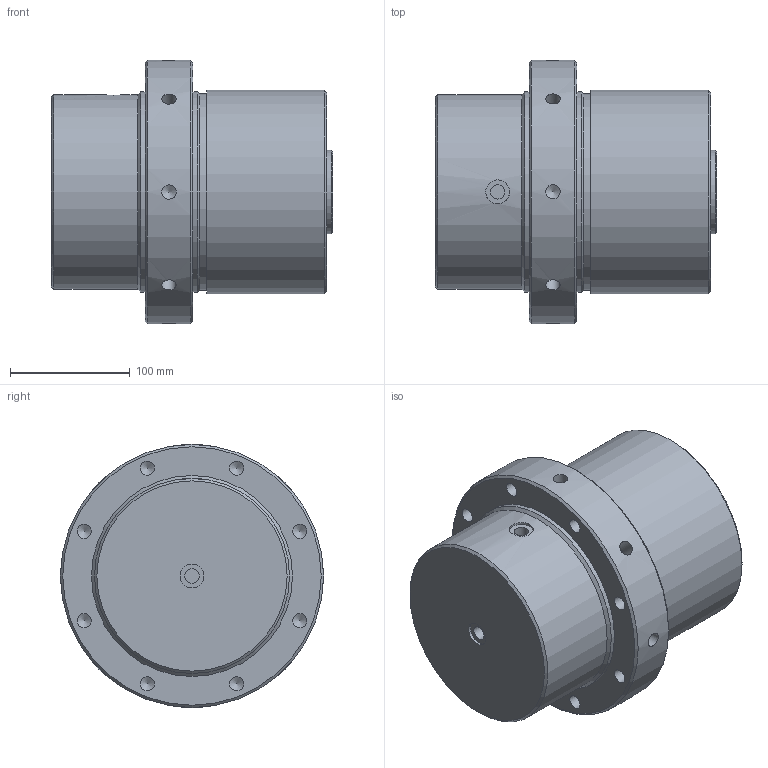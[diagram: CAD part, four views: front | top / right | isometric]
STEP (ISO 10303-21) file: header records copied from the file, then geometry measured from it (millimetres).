
FILE_DESCRIPTION( ( 'Unknown' ), '1' );
FILE_NAME( 'F:/JAKOB-STEP+IGES-Dateien/STEP-Dateien/ZSF/ZSF 25000.stp', 'Unknown', ( 'Unknown' ), ( 'Unknown' ), 'XStep 1.0', 'Unknown', ' ' );
FILE_SCHEMA( ( 'CONFIG_CONTROL_DESIGN' ) );
Length unit declared in the file: millimetre
Products named in the file (1): 1
Bounding box: 235 x 220 x 220 mm (x, y, z)
Volume: 5554329.9 mm3; surface area: 225807.1 mm2
Topology: 1 solids, 1 shells, 63 faces, 153 edges, 99 vertices
Faces by surface type: cylinder 28, cone 24, plane 11
Full cylindrical faces by diameter (mm): 12 x18, 20 x2, 43.376 x1, 70 x1, 163 x1, 164 x1, 168 x2, 170 x1, 220 x1
Entity records: 2083 total; most frequent: CARTESIAN_POINT 952, DIRECTION 234, EDGE_LOOP 124, ORIENTED_EDGE 124, AXIS2_PLACEMENT_3D 117, FACE_OUTER_BOUND 91, VERTEX_POINT 78, ADVANCED_FACE 63
